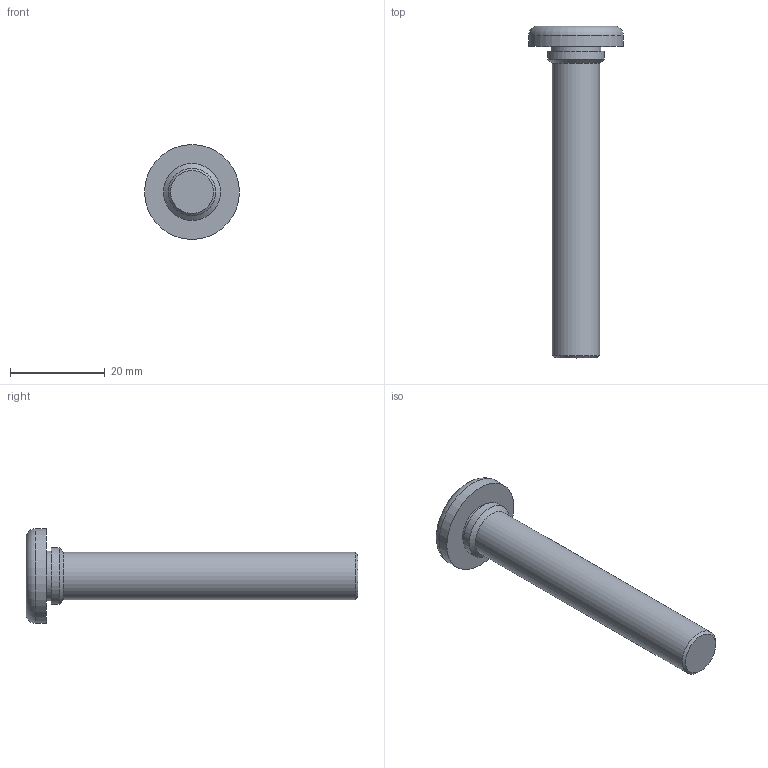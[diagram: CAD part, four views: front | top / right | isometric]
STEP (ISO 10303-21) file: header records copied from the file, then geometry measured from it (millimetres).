
FILE_DESCRIPTION(/* description */ (''),/* implementation_level */ '2;1');
FILE_NAME(/* name */ 'C:\Users\keval.kumar\Desktop\Fastit\Press Screw\M10\Press Screw_M10 x70.stp',/* time_stamp */ '2024-03-12T17:51:38+05:00',/* author */ ('keval.kumar'),/* organization */ (''),/* preprocessor_version */ 'ST-DEVELOPER v18.1',/* originating_system */ 'Autodesk Inventor 2022',/* authorisation */ '');
FILE_SCHEMA (('AUTOMOTIVE_DESIGN { 1 0 10303 214 3 1 1 }'));
Length unit declared in the file: millimetre
Products named in the file (1): Press Screw_M10 x70
Bounding box: 20 x 70 x 20 mm (x, y, z)
Volume: 6535.1 mm3; surface area: 2946.5 mm2
Topology: 1 solids, 1 shells, 11 faces, 19 edges, 12 vertices
Faces by surface type: cylinder 4, plane 4, cone 2, torus 1
Full cylindrical faces by diameter (mm): 10 x1, 10.5 x1, 12 x1, 20 x1
Entity records: 313 total; most frequent: DIRECTION 56, CARTESIAN_POINT 43, ORIENTED_EDGE 38, AXIS2_PLACEMENT_3D 25, EDGE_CURVE 19, EDGE_LOOP 13, CIRCLE 13, VERTEX_POINT 12
